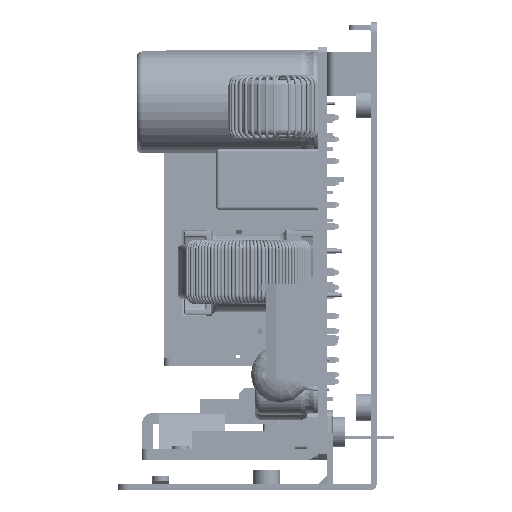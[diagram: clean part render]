
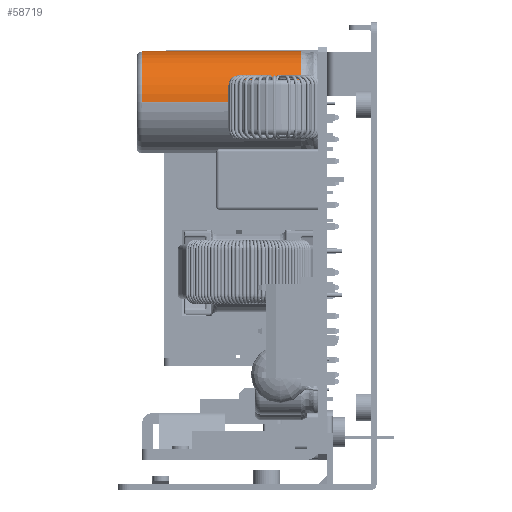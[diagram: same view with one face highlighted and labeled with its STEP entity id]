
A CAD part, left-side view. The second image highlights one B-rep face of the part: STEP entity #58719.
In plain terms, the highlighted cylindrical face has radius 9.25 mm (diameter 18.5 mm), a partial arc.
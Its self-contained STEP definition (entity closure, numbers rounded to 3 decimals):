
#13886=CARTESIAN_POINT('',(-25.3,13.653,
27.9));
#13888=CARTESIAN_POINT('',(-16.05,13.653,27.9));
#13889=DIRECTION('',(0.,1.,0.));
#13890=DIRECTION('',(-1.,0.,0.));
#13891=AXIS2_PLACEMENT_3D('',#13888,#13889,#13890);
#13918=DIRECTION('',(0.,-1.,0.));
#13919=VECTOR('',#13918,28.947);
#13920=CARTESIAN_POINT('',(-25.3,42.6,27.9));
#13921=LINE('',#13920,#13919);
#13922=DIRECTION('',(0.,1.,0.));
#13923=VECTOR('',#13922,28.947);
#13924=CARTESIAN_POINT('',(-6.8,13.653,
27.9));
#13925=LINE('',#13924,#13923);
#13976=CARTESIAN_POINT('',(-16.05,42.6,27.9));
#13977=DIRECTION('',(0.,-1.,0.));
#13978=DIRECTION('',(1.,0.,0.));
#13979=AXIS2_PLACEMENT_3D('',#13976,#13977,#13978);
#13981=CARTESIAN_POINT('',(-16.05,42.6,27.9));
#13982=DIRECTION('',(0.,-1.,0.));
#13983=DIRECTION('',(1.,0.,0.012));
#13984=AXIS2_PLACEMENT_3D('',#13981,#13982,#13983);
#36933=VERTEX_POINT('',#13886);
#36934=CARTESIAN_POINT('',(-6.8,13.653,
27.9));
#36935=VERTEX_POINT('',#36934);
#36940=CARTESIAN_POINT('',(-6.8,42.6,27.9));
#36942=VERTEX_POINT('',#36940);
#36943=CARTESIAN_POINT('',(-25.3,42.6,27.9));
#36944=VERTEX_POINT('',#36943);
#36957=CARTESIAN_POINT('',(-6.801,42.6,28.009));
#36958=VERTEX_POINT('',#36957);
#58707=CARTESIAN_POINT('',(-16.05,43.179,27.9));
#58708=DIRECTION('',(0.,-1.,0.));
#58709=DIRECTION('',(1.,0.,0.));
#58710=AXIS2_PLACEMENT_3D('',#58707,#58708,#58709);
#58711=CYLINDRICAL_SURFACE('',#58710,9.25);
#58712=ORIENTED_EDGE('',*,*,#58701,.F.);
#58713=ORIENTED_EDGE('',*,*,#58699,.F.);
#58714=ORIENTED_EDGE('',*,*,#58648,.F.);
#58715=ORIENTED_EDGE('',*,*,#58586,.F.);
#58716=ORIENTED_EDGE('',*,*,#58645,.F.);
#58717=EDGE_LOOP('',(#58712,#58713,#58714,#58715,#58716));
#58718=FACE_OUTER_BOUND('',#58717,.F.);
#13892=CIRCLE('',#13891,9.25);
#13980=CIRCLE('',#13979,9.25);
#13985=CIRCLE('',#13984,9.25);
#58586=EDGE_CURVE('',#36933,#36935,#13892,.T.);
#58645=EDGE_CURVE('',#36944,#36933,#13921,.T.);
#58648=EDGE_CURVE('',#36935,#36942,#13925,.T.);
#58699=EDGE_CURVE('',#36942,#36958,#13980,.T.);
#58701=EDGE_CURVE('',#36958,#36944,#13985,.T.);
#58719=ADVANCED_FACE('',(#58718),#58711,.T.);
